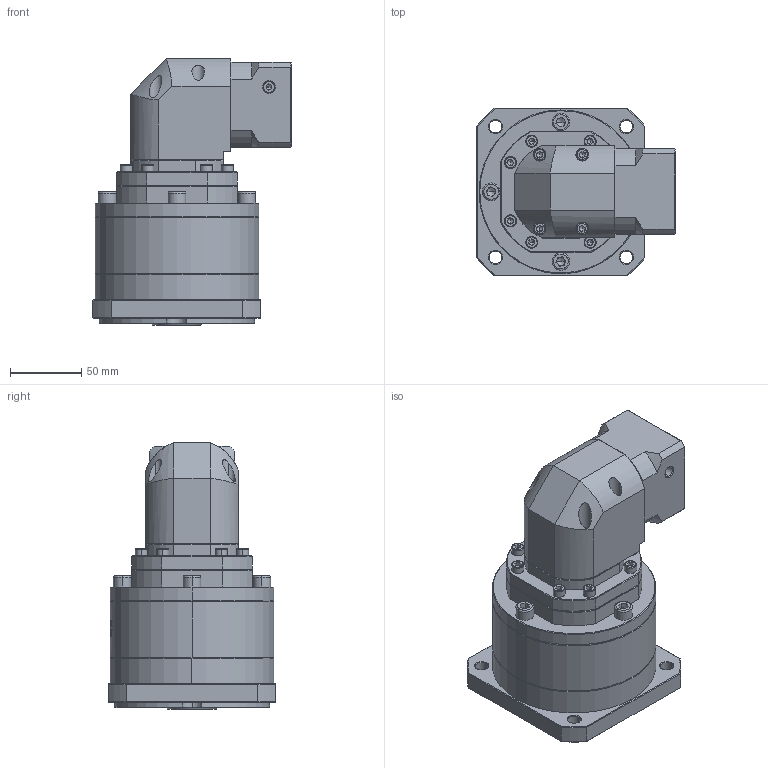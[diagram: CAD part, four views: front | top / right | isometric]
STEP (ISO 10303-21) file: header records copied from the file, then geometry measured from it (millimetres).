
FILE_DESCRIPTION (( 'STEP AP214' ), '1' );
FILE_NAME ('ZFR120A-K25-L3-P2-14-50-70-M5.step', '2023-08-27T09:51:21', ( '' ), ( '' ), 'SwSTEP 2.0', 'SolidWorks 2016', '' );
FILE_SCHEMA (( 'AUTOMOTIVE_DESIGN' ));
Length unit declared in the file: millimetre
Products named in the file (1): ZFR120A-K25-L3-P2-14-50-70-M5
Bounding box: 139.2 x 118 x 187.5 mm (x, y, z)
Volume: 1422355.9 mm3; surface area: 137421.9 mm2
Topology: 6 solids, 6 shells, 2379 faces, 6315 edges, 4052 vertices
Faces by surface type: plane 1165, bspline 438, cylinder 429, cone 339, torus 8
Entity records: 124159 total; most frequent: CARTESIAN_POINT 44154, ORIENTED_EDGE 12526, DIRECTION 9380, EDGE_CURVE 6263, VERTEX_POINT 4052, LINE 3366, VECTOR 3366, AXIS2_PLACEMENT_3D 3007
